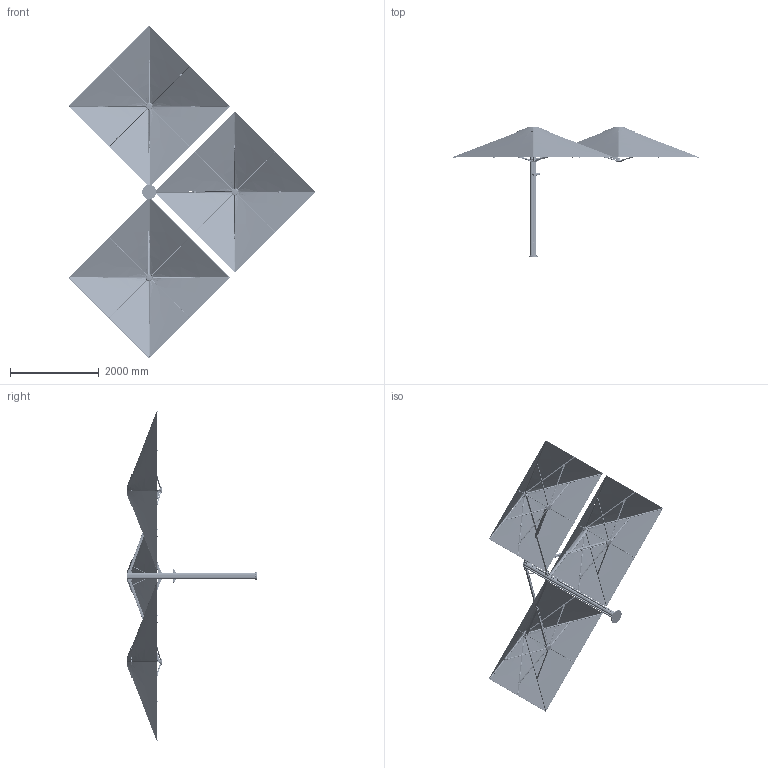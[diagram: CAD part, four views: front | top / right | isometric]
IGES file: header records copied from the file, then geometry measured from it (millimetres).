
Start section: SolidWorks IGES file using analytic representation for surfaces
Global section: file name: S:\SHADE UMBRELLAS\3. CAD Model Drawings. Data Sheets\SHADOWSPEC Unity & Serenity\IGES Files\2.5M CNR SQ Trio.IGS; native system: SolidWorks 2017; preprocessor: SolidWorks 2017; author: Peter; date: 200619.100112; units: millimetre
Bounding box: 5550.69 x 2943.5 x 7479.23 mm (x, y, z)
Surface area: 57588888.7 mm2 (no closed solid volume)
Topology: 0 solids, 0 shells, 4670 faces, 63207 edges, 63171 vertices
Faces by surface type: bspline 2367, revolution 2303
